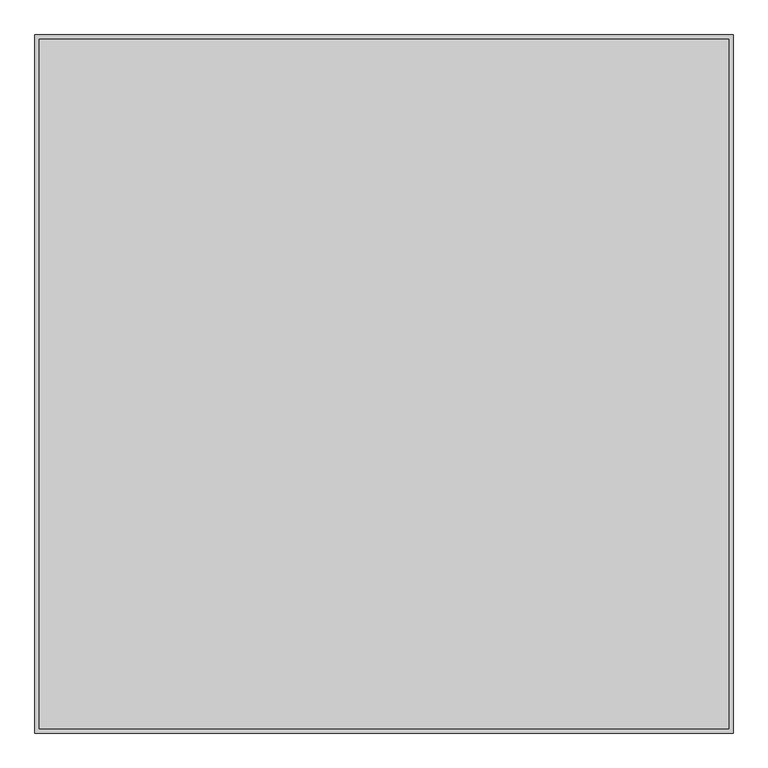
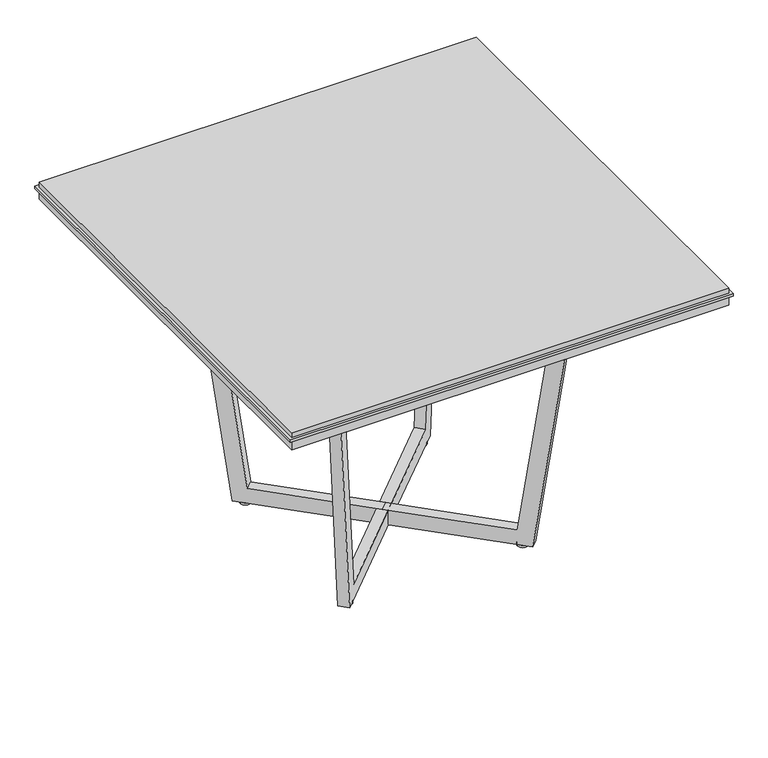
"""IFC4 building model written with IfcOpenShell, lengths in millimetres: furniture geometry, Knoll_Datesweiser_Tables_Meeting_Highline_Square : 42W Corian Open."""

import ifcopenshell
import ifcopenshell.guid

model = None  # the IFC model being written
_history = None  # IfcOwnerHistory: only IFC2X3 demands one
_inside = {}  # id of a spatial element -> (the spatial element, [elements in it])
_under = {}  # id of a project, library or spatial element -> (it, [spatial elements below it])
_declared = {}  # id of a project -> (the project, [libraries it declares])
_typed = {}  # id of a type object -> (the type object, [elements of that type])
_made_of = {}  # id of a material, layer set ... -> (it, [elements and type objects made of it])


def new_model(schema):
    """Start an empty IFC model of exactly this schema.

    Asked for "IFC4X3", IfcOpenShell would pick the latest addendum, in which some entities
    have other attributes; the version numbers below select the first issue.
    IFC2X3 requires an IfcOwnerHistory on every rooted entity: one is made here for all.
    """
    global model, _history
    if schema == "IFC4X3":
        model = ifcopenshell.file(schema_version=(4, 3, 0, 0))
    else:
        model = ifcopenshell.file(schema=schema)
    _inside.clear()
    _under.clear()
    _declared.clear()
    _typed.clear()
    _made_of.clear()
    _history = None
    if model.schema == "IFC2X3":
        org = make("IfcOrganization", Name="unknown")
        user = make(
            "IfcPersonAndOrganization",
            ThePerson=make("IfcPerson", FamilyName="unknown"),
            TheOrganization=org,
        )
        app = make(
            "IfcApplication",
            ApplicationDeveloper=org,
            Version="unknown",
            ApplicationFullName="unknown",
            ApplicationIdentifier="unknown",
        )
        _history = make(
            "IfcOwnerHistory",
            OwningUser=user,
            OwningApplication=app,
            ChangeAction="ADDED",
            CreationDate=0,
        )
    return model


def make(cls, **values):
    """One entity of the class cls with the attributes given. An attribute that is None is left unset."""
    return model.create_entity(
        cls, **{name: value for name, value in values.items() if value is not None}
    )


def rooted(cls, **values):
    """An entity with a GlobalId (a new one), such as an element, a storey or a relation."""
    return make(cls, GlobalId=ifcopenshell.guid.new(), OwnerHistory=_history, **values)


def si_unit(unit_type, name, prefix=None):
    """IfcSIUnit, for example si_unit("LENGTHUNIT", "METRE", prefix="MILLI")."""
    return make("IfcSIUnit", UnitType=unit_type, Prefix=prefix, Name=name)


def assignment(units):
    """IfcUnitAssignment: the units of a project."""
    return None if units is None else make("IfcUnitAssignment", Units=units)


def point(xyz):
    """IfcCartesianPoint."""
    return None if xyz is None else make("IfcCartesianPoint", Coordinates=xyz)


def direction(xyz):
    """IfcDirection."""
    return None if xyz is None else make("IfcDirection", DirectionRatios=xyz)


def frame(location, z_axis=None, x_axis=None):
    """IfcAxis2Placement3D, a coordinate frame: its origin and axes. An axis left out is left unset."""
    return make(
        "IfcAxis2Placement3D",
        Location=point(location),
        Axis=direction(z_axis),
        RefDirection=direction(x_axis),
    )


def frame_2d(location, x_axis=None):
    """IfcAxis2Placement2D, a coordinate frame in the plane: its origin and x axis."""
    return make(
        "IfcAxis2Placement2D", Location=point(location), RefDirection=direction(x_axis)
    )


def origin():
    """The frame at (0, 0, 0) with its axes left unset."""
    return frame((0.0, 0.0, 0.0))


def origin_with_axes():
    """The frame at (0, 0, 0) with the z axis (0, 0, 1) and the x axis (1, 0, 0) written out."""
    return frame((0.0, 0.0, 0.0), z_axis=(0.0, 0.0, 1.0), x_axis=(1.0, 0.0, 0.0))


def place(relative_to, where):
    """IfcLocalPlacement: puts the frame where relative to a parent placement (None: the world)."""
    return make(
        "IfcLocalPlacement", PlacementRelTo=relative_to, RelativePlacement=where
    )


def context(
    kind, dimensions, precision=None, world=None, true_north=None, identifier=None
):
    """IfcGeometricRepresentationContext, for example the 3D "Model" context."""
    return make(
        "IfcGeometricRepresentationContext",
        ContextIdentifier=identifier,
        ContextType=kind,
        CoordinateSpaceDimension=dimensions,
        Precision=precision,
        WorldCoordinateSystem=world,
        TrueNorth=true_north,
    )


def project(units=None, contexts=None):
    """IfcProject with its units and contexts."""
    return rooted(
        "IfcProject",
        Name="project",
        RepresentationContexts=contexts,
        UnitsInContext=assignment(units),
    )


def spatial(cls, under=None, at=None, **own):
    """A site, building, storey or space (cls), placed at a placement, below another one or the project."""
    s = rooted(cls, ObjectPlacement=at, **own)
    if under is not None:
        _under.setdefault(under.id(), (under, []))[1].append(s)
    return s


def polyline(points):
    """IfcPolyline through the points."""
    return make("IfcPolyline", Points=[point(p) for p in points])


def circle_curve(where, radius):
    """IfcCircle in the frame where."""
    return make("IfcCircle", Position=where, Radius=radius)


def trimmed(basis, trim1, trim2, sense, master):
    """IfcTrimmedCurve: the piece of a basis curve between two trims."""
    return make(
        "IfcTrimmedCurve",
        BasisCurve=basis,
        Trim1=trim1,
        Trim2=trim2,
        SenseAgreement=sense,
        MasterRepresentation=master,
    )


def segment(curve, same_sense, transition):
    """IfcCompositeCurveSegment."""
    return make(
        "IfcCompositeCurveSegment",
        Transition=transition,
        SameSense=same_sense,
        ParentCurve=curve,
    )


def composite_curve(segments, self_intersect=None):
    """IfcCompositeCurve: segments joined end to end."""
    return make("IfcCompositeCurve", Segments=segments, SelfIntersect=self_intersect)


def outline(outer, holes=None, kind="AREA"):
    """IfcArbitraryClosedProfileDef: a profile drawn as a closed curve; with holes, ...WithVoids."""
    if holes is None:
        return make("IfcArbitraryClosedProfileDef", ProfileType=kind, OuterCurve=outer)
    return make(
        "IfcArbitraryProfileDefWithVoids",
        ProfileType=kind,
        OuterCurve=outer,
        InnerCurves=holes,
    )


def extrude(swept, where, along, depth):
    """IfcExtrudedAreaSolid: the profile swept, set in the frame where, extruded along a direction by depth."""
    return make(
        "IfcExtrudedAreaSolid",
        SweptArea=swept,
        Position=where,
        ExtrudedDirection=direction(along),
        Depth=depth,
    )


def shape(context_of_items, identifier, shape_type, items):
    """IfcShapeRepresentation: the items that make up one representation, for example the "Body"."""
    return make(
        "IfcShapeRepresentation",
        ContextOfItems=context_of_items,
        RepresentationIdentifier=identifier,
        RepresentationType=shape_type,
        Items=items,
    )


def source(mapping_origin, context_of_items, identifier, shape_type, items):
    """IfcRepresentationMap: a shape defined once, which mapped items show again and again."""
    return make(
        "IfcRepresentationMap",
        MappingOrigin=mapping_origin,
        MappedRepresentation=shape(context_of_items, identifier, shape_type, items),
    )


def transform(
    local_origin,
    x_axis=None,
    y_axis=None,
    z_axis=None,
    scale=None,
    scale2=None,
    scale3=None,
    uniform=True,
):
    """IfcCartesianTransformationOperator3D, or its non-uniform kind. x_axis, y_axis, z_axis: its Axis1, 2, 3."""
    if uniform:
        return make(
            "IfcCartesianTransformationOperator3D",
            Axis1=direction(x_axis),
            Axis2=direction(y_axis),
            LocalOrigin=point(local_origin),
            Scale=scale,
            Axis3=direction(z_axis),
        )
    return make(
        "IfcCartesianTransformationOperator3DnonUniform",
        Axis1=direction(x_axis),
        Axis2=direction(y_axis),
        LocalOrigin=point(local_origin),
        Scale=scale,
        Axis3=direction(z_axis),
        Scale2=scale2,
        Scale3=scale3,
    )


def mapped(mapping_source, mapping_target):
    """IfcMappedItem: shows the shape of a source again, moved by a transform."""
    return make(
        "IfcMappedItem", MappingSource=mapping_source, MappingTarget=mapping_target
    )


def made_of(thing, what):
    """Note that an element or type object is made of a material, layer set ...; save() writes the relation."""
    if what is not None:
        _made_of.setdefault(what.id(), (what, []))[1].append(thing)
    return thing


def element(
    cls,
    number,
    at=None,
    inside=None,
    cuts=None,
    type_object=None,
    material=None,
    context=None,
    identifier="Body",
    shape_type=None,
    held_by="IfcProductDefinitionShape",
    body=None,
    shapes=None,
    **own,
):
    """One element of the class cls, such as IfcWall. Its Tag is "e" and its number.

    at: its placement. inside: the storey or other place that contains it. cuts: it is an
    opening in that element (IfcRelVoidsElement). A single representation is given by context,
    identifier, shape_type and body (its items); several are given by shapes. held_by: the class
    of the entity that holds the representations. save() writes the other relations.
    """
    e = rooted(cls, Tag="e%d" % number, ObjectPlacement=at, **own)
    if body is not None:
        shapes = [shape(context, identifier, shape_type, body)]
    if shapes is not None:
        e.Representation = make(held_by, Representations=shapes)
    if inside is not None:
        _inside.setdefault(inside.id(), (inside, []))[1].append(e)
    if cuts is not None:
        rooted(
            "IfcRelVoidsElement", RelatingBuildingElement=cuts, RelatedOpeningElement=e
        )
    if type_object is not None:
        _typed.setdefault(type_object.id(), (type_object, []))[1].append(e)
    return made_of(e, material)


def aggregate(whole, parts):
    """IfcRelAggregates: a whole, such as a stair, and the parts it consists of."""
    return rooted("IfcRelAggregates", RelatingObject=whole, RelatedObjects=parts)


def save(model, path):
    """Write the relations noted so far, then the file.

    IfcRelAggregates (storeys below a building ...), IfcRelContainedInSpatialStructure (elements
    in a storey), IfcRelDefinesByType, IfcRelAssociatesMaterial and IfcRelDeclares: one each for
    every whole, place, type object, material and project.
    """
    for whole, parts in _under.values():
        aggregate(whole, parts)
    for where, things in _inside.values():
        rooted(
            "IfcRelContainedInSpatialStructure",
            RelatedElements=things,
            RelatingStructure=where,
        )
    for kind, things in _typed.values():
        rooted("IfcRelDefinesByType", RelatedObjects=things, RelatingType=kind)
    for what, things in _made_of.values():
        rooted("IfcRelAssociatesMaterial", RelatedObjects=things, RelatingMaterial=what)
    for by, libraries in _declared.values():
        rooted("IfcRelDeclares", RelatingContext=by, RelatedDefinitions=libraries)
    model.write(path)


def furniture_b807c30e(model_context):
    return source(origin(), model_context, "Body", "SweptSolid", [
        extrude(outline(polyline([(533.4, 533.4), (533.4, -533.4), (-533.4, -533.4), (-533.4, 533.4), (533.4, 533.4)])), frame((0.0, 0.0, 698.5), z_axis=(0.0, 0.0, 1.0), x_axis=(1.0, 0.0, 0.0)), (0.0, 0.0, 1.0), 25.4),
        extrude(outline(polyline([(533.4, 533.4), (533.4, -533.4), (-533.4, -533.4), (-533.4, 533.4), (533.4, 533.4)])), frame((0.0, 0.0, 730.25), z_axis=(0.0, 0.0, 1.0), x_axis=(1.0, 0.0, 0.0)), (0.0, 0.0, 1.0), 12.7),
        extrude(outline(polyline([(539.75, 539.75), (539.75, -539.75), (-539.75, -539.75), (-539.75, 539.75), (539.75, 539.75)])), frame((0.0, 0.0, 723.9), z_axis=(0.0, 0.0, 1.0), x_axis=(1.0, 0.0, 0.0)), (0.0, 0.0, 1.0), 6.35),
        extrude(outline(composite_curve([segment(trimmed(circle_curve(frame_2d((-214.2640473, -214.2640473)), 12.7), [point((-201.5640473, -214.2640473))], [point((-226.9640473, -214.2640473))], False, "CARTESIAN"), True, "CONTINUOUS"), segment(trimmed(circle_curve(frame_2d((-214.2640473, -214.2640473)), 12.7), [point((-226.9640473, -214.2640473))], [point((-201.5640473, -214.2640473))], False, "CARTESIAN"), True, "CONTINUOUS")], self_intersect=False)), origin_with_axes(), (0.0, 0.0, 1.0), 5.9867797),
        extrude(outline(composite_curve([segment(trimmed(circle_curve(frame_2d((-214.2640473, 214.2640473)), 12.7), [point((-201.5640473, 214.2640473))], [point((-226.9640473, 214.2640473))], False, "CARTESIAN"), True, "CONTINUOUS"), segment(trimmed(circle_curve(frame_2d((-214.2640473, 214.2640473)), 12.7), [point((-226.9640473, 214.2640473))], [point((-201.5640473, 214.2640473))], False, "CARTESIAN"), True, "CONTINUOUS")], self_intersect=False)), origin_with_axes(), (0.0, 0.0, 1.0), 5.9867797),
        extrude(outline(composite_curve([segment(trimmed(circle_curve(frame_2d((214.2640473, -214.2640473)), 12.7), [point((226.9640473, -214.2640473))], [point((201.5640473, -214.2640473))], False, "CARTESIAN"), True, "CONTINUOUS"), segment(trimmed(circle_curve(frame_2d((214.2640473, -214.2640473)), 12.7), [point((201.5640473, -214.2640473))], [point((226.9640473, -214.2640473))], False, "CARTESIAN"), True, "CONTINUOUS")], self_intersect=False)), origin_with_axes(), (0.0, 0.0, 1.0), 5.9867797),
        extrude(outline(composite_curve([segment(trimmed(circle_curve(frame_2d((214.2640473, 214.2640473)), 12.7), [point((226.9640473, 214.2640473))], [point((201.5640473, 214.2640473))], False, "CARTESIAN"), True, "CONTINUOUS"), segment(trimmed(circle_curve(frame_2d((214.2640473, 214.2640473)), 12.7), [point((201.5640473, 214.2640473))], [point((226.9640473, 214.2640473))], False, "CARTESIAN"), True, "CONTINUOUS")], self_intersect=False)), origin_with_axes(), (0.0, 0.0, 1.0), 5.9867797),
        extrude(outline(polyline([(-328.4154116, 0.0), (0.0, 0.0), (96.4293466, -692.6387226), (57.9549435, -692.5888898), (-33.1691487, -38.0570712), (-328.4642085, -37.6745992), (-623.7592682, -37.2921272), (-716.578577, -691.5856987), (-755.0529801, -691.5358658), (-656.8297213, 0.8507388), (-328.4154116, 0.0)])), frame((223.2443137, -241.2048259, 5.9867797), z_axis=(0.7071067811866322, 0.7071067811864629, 0.0), x_axis=(0.7071061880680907, -0.70710618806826, -0.001295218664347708)), (0.0, 0.0, 1.0), 25.4),
        extrude(outline(polyline([(328.4154116, 0.0), (656.8297213, 0.8507388), (755.0529801, -691.5358658), (716.578577, -691.5856987), (623.7592682, -37.2921272), (328.4642085, -37.6745992), (33.1691487, -38.0570712), (-57.9549435, -692.5888898), (-96.4293466, -692.6387226), (0.0, 0.0), (328.4154116, 0.0)])), frame((-223.2443137, -241.2048259, 5.9867797), z_axis=(-0.707106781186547, 0.7071067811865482, 0.0), x_axis=(0.7071061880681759, 0.7071061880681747, 0.001295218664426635)), (0.0, 0.0, 1.0), 25.4),
    ])


if __name__ == "__main__":
    model = new_model("IFC4")
    model_context = context("Model", 3, world=origin())
    ifc_project = project(units=[si_unit("LENGTHUNIT", "METRE", prefix="MILLI")], contexts=[model_context])
    site = spatial("IfcSite", under=ifc_project)
    building = spatial("IfcBuilding", under=site)
    placement = place(None, origin())
    furniture_shape = furniture_b807c30e(model_context)
    element("IfcFurniture", 1, ObjectType="Knoll_Datesweiser_Tables_Meeting_Highline_Square : 42W Corian Open", at=placement, inside=building, context=model_context, shape_type="MappedRepresentation", body=[
        mapped(furniture_shape, transform((0.0, 0.0, 0.0), x_axis=(1.0, 0.0, 0.0), y_axis=(0.0, 1.0, 0.0), z_axis=(0.0, 0.0, 1.0))),
    ])
    save(model, "model.ifc")
